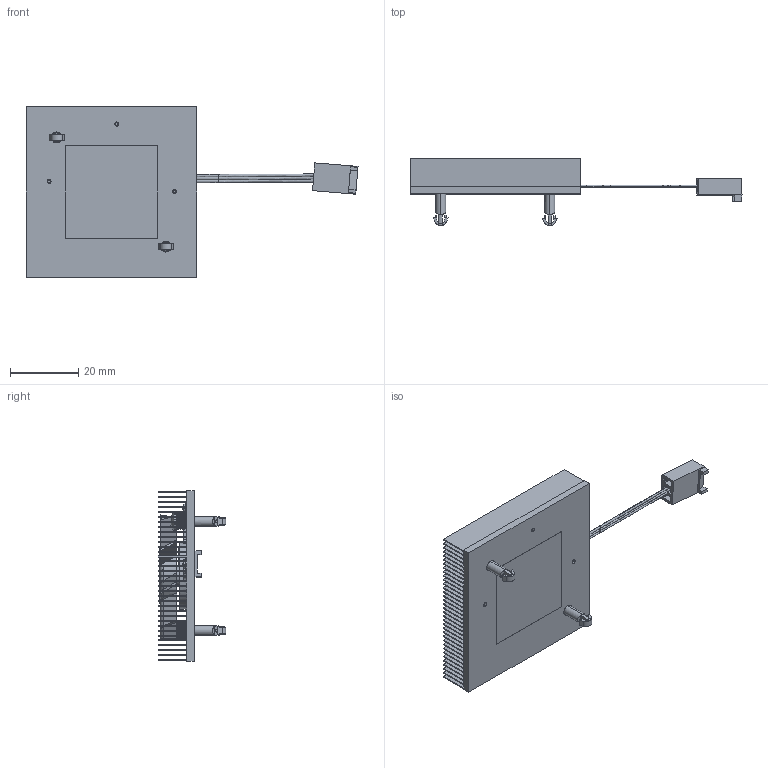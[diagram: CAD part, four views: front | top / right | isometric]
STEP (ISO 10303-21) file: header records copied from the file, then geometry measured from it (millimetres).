
FILE_DESCRIPTION (( 'STEP AP214' ), '1' );
FILE_NAME ('WV12S_A1.STEP', '2023-12-16T01:39:58', ( '' ), ( '' ), 'SwSTEP 2.0', 'SolidWorks 2022', '' );
FILE_SCHEMA (( 'AUTOMOTIVE_DESIGN' ));
Length unit declared in the file: millimetre
Products named in the file (12): HS8143; PCI4018; 22-01-3037.STEP; HS8416; HS8143 (SPRING-COMPRESSED)_COMPRESSED; WV12S_A1; HS8249; HS8143 (PUSH PIN); PB0010-01; 91800A075_91800A075; HS8416.STEP; JPY04008  3D file_for customer_asm.STEP
Assembly tree (14 placements, depth 4):
  WV12S_A1
    PCI4018
    HS8416
      HS8416.STEP
        JPY04008  3D file_for customer_asm.STEP
        22-01-3037.STEP
    HS8143  x2
      HS8143 (PUSH PIN)
      HS8143 (SPRING-COMPRESSED)_COMPRESSED
    91800A075_91800A075  x3
    HS8249
    PB0010-01
Bounding box: 97.35 x 19.8 x 50 mm (x, y, z)
Volume: 8258.9 mm3; surface area: 24107.4 mm2
Topology: 44 solids, 44 shells, 1256 faces, 3340 edges, 2175 vertices
Faces by surface type: plane 709, bspline 236, cylinder 229, torus 40, cone 30, sphere 12
Entity records: 52957 total; most frequent: CARTESIAN_POINT 22598, ORIENTED_EDGE 5882, DIRECTION 4233, EDGE_CURVE 2941, VERTEX_POINT 1925, LINE 1781, VECTOR 1781, AXIS2_PLACEMENT_3D 1226
